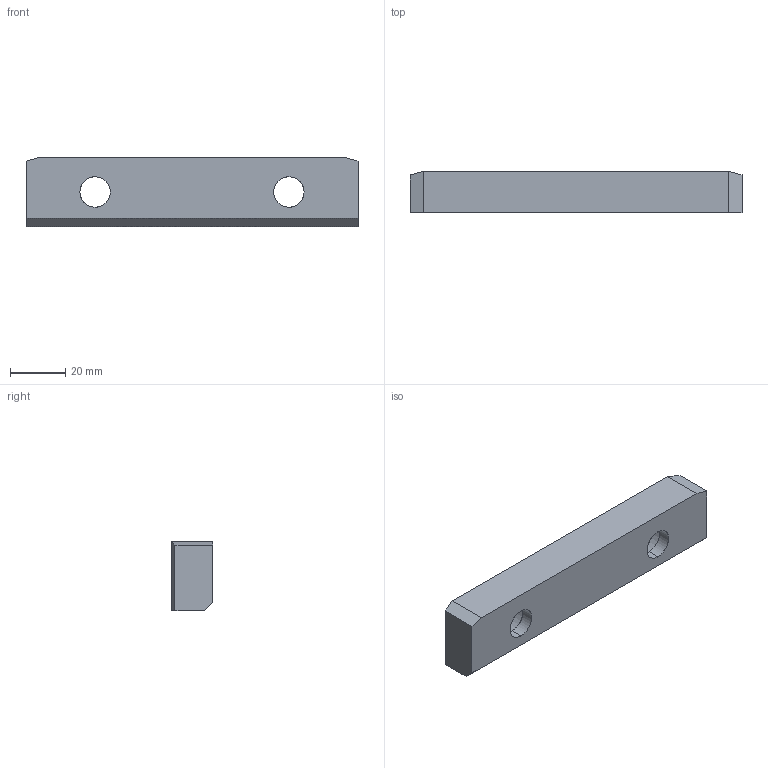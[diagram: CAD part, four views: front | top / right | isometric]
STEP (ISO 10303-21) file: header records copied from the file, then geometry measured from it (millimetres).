
FILE_DESCRIPTION(('CATIA V5 STEP Exchange'),'2;1');
FILE_NAME('C:\Users\Utente\Desktop\3D files A609\A609-015-120.stp','2020-04-13T19:47:54+00:00',('none'),('none'),'CATIA Version 5 Release 20 GA (IN-10)','CATIA V5 STEP AP203','none');
FILE_SCHEMA(('CONFIG_CONTROL_DESIGN'));
Length unit declared in the file: millimetre
Products named in the file (1): Noname
Bounding box: 120 x 15 x 25 mm (x, y, z)
Surface area: 11131.8 mm2 (no closed solid volume)
Topology: 0 solids, 17 shells, 21 faces, 90 edges, 82 vertices
Faces by surface type: extrusion 13, cylinder 8
Entity records: 1193 total; most frequent: CARTESIAN_POINT 465, ORIENTED_EDGE 98, DIRECTION 93, EDGE_CURVE 90, VERTEX_POINT 82, VECTOR 61, LINE 48, B_SPLINE_CURVE_WITH_KNOTS 39
